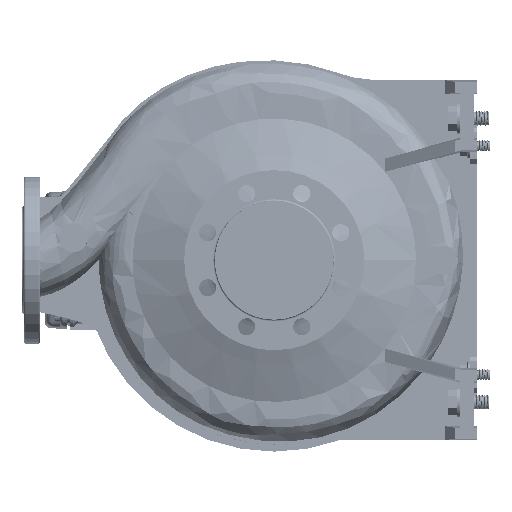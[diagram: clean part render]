
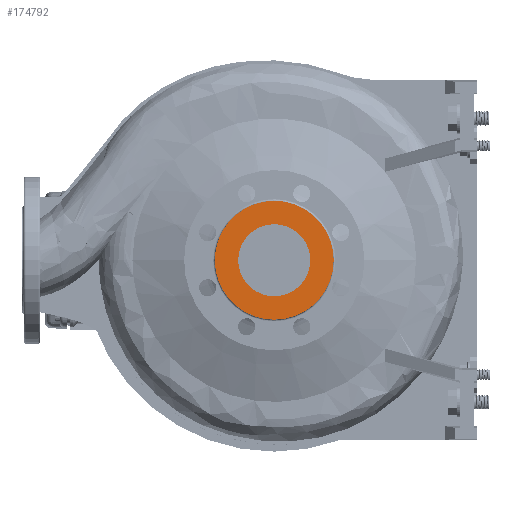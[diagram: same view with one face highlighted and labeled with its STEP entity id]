
A CAD part, left-side view. The second image highlights one B-rep face of the part: STEP entity #174792.
In plain terms, the highlighted planar face has unit normal (-1, 0, 0).
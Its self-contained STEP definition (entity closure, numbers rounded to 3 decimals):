
#13128 = CARTESIAN_POINT ( 'NONE',  ( -125., 40., 0. ) ) ;
#20867 = DIRECTION ( 'NONE',  ( 0., -1., 0. ) ) ;
#25067 = AXIS2_PLACEMENT_3D ( 'NONE', #38956, #132297, #187057 ) ;
#29017 = ORIENTED_EDGE ( 'NONE', *, *, #167998, .F. ) ;
#37082 = VERTEX_POINT ( 'NONE', #147107 ) ;
#38956 = CARTESIAN_POINT ( 'NONE',  ( -125., 0., 0. ) ) ;
#43184 = CARTESIAN_POINT ( 'NONE',  ( -125., 0., 0. ) ) ;
#44211 = EDGE_LOOP ( 'NONE', ( #48198, #109247 ) ) ;
#48198 = ORIENTED_EDGE ( 'NONE', *, *, #73327, .F. ) ;
#48228 = CIRCLE ( 'NONE', #171568, 40. ) ;
#48612 = EDGE_CURVE ( 'NONE', #203644, #56933, #48228, .T. ) ;
#53890 = FACE_OUTER_BOUND ( 'NONE', #44211, .T. ) ;
#55315 = DIRECTION ( 'NONE',  ( 1., 0., 0. ) ) ;
#56933 = VERTEX_POINT ( 'NONE', #13128 ) ;
#68256 = CARTESIAN_POINT ( 'NONE',  ( -125., 0., 0. ) ) ;
#71418 = AXIS2_PLACEMENT_3D ( 'NONE', #43184, #229933, #20867 ) ;
#73327 = EDGE_CURVE ( 'NONE', #37082, #162046, #78179, .T. ) ;
#78179 = CIRCLE ( 'NONE', #245144, 66. ) ;
#92477 = FACE_BOUND ( 'NONE', #217770, .T. ) ;
#109247 = ORIENTED_EDGE ( 'NONE', *, *, #110281, .F. ) ;
#110281 = EDGE_CURVE ( 'NONE', #162046, #37082, #118559, .T. ) ;
#112309 = DIRECTION ( 'NONE',  ( -1., 0., 0. ) ) ;
#118559 = CIRCLE ( 'NONE', #197921, 66. ) ;
#128793 = CARTESIAN_POINT ( 'NONE',  ( -125., 0., 0. ) ) ;
#129827 = PLANE ( 'NONE',  #25067 ) ;
#132215 = DIRECTION ( 'NONE',  ( 0., -1., 0. ) ) ;
#132297 = DIRECTION ( 'NONE',  ( -1., 0., 0. ) ) ;
#135648 = CARTESIAN_POINT ( 'NONE',  ( -125., -40., 0. ) ) ;
#147107 = CARTESIAN_POINT ( 'NONE',  ( -125., 66., 0. ) ) ;
#149923 = DIRECTION ( 'NONE',  ( 0., 1., 0. ) ) ;
#151159 = CARTESIAN_POINT ( 'NONE',  ( -125., -66., 0. ) ) ;
#162046 = VERTEX_POINT ( 'NONE', #151159 ) ;
#167998 = EDGE_CURVE ( 'NONE', #56933, #203644, #182847, .T. ) ;
#169537 = CARTESIAN_POINT ( 'NONE',  ( -125., 0., 0. ) ) ;
#171568 = AXIS2_PLACEMENT_3D ( 'NONE', #169537, #112309, #132215 ) ;
#172015 = ORIENTED_EDGE ( 'NONE', *, *, #48612, .F. ) ;
#174792 = ADVANCED_FACE ( 'NONE', ( #92477, #53890 ), #129827, .T. ) ;
#176657 = DIRECTION ( 'NONE',  ( 1., 0., 0. ) ) ;
#182847 = CIRCLE ( 'NONE', #71418, 40. ) ;
#187057 = DIRECTION ( 'NONE',  ( 0., -1., 0. ) ) ;
#197921 = AXIS2_PLACEMENT_3D ( 'NONE', #128793, #55315, #149923 ) ;
#203644 = VERTEX_POINT ( 'NONE', #135648 ) ;
#215223 = DIRECTION ( 'NONE',  ( 0., 1., 0. ) ) ;
#217770 = EDGE_LOOP ( 'NONE', ( #172015, #29017 ) ) ;
#229933 = DIRECTION ( 'NONE',  ( -1., 0., 0. ) ) ;
#245144 = AXIS2_PLACEMENT_3D ( 'NONE', #68256, #176657, #215223 ) ;
